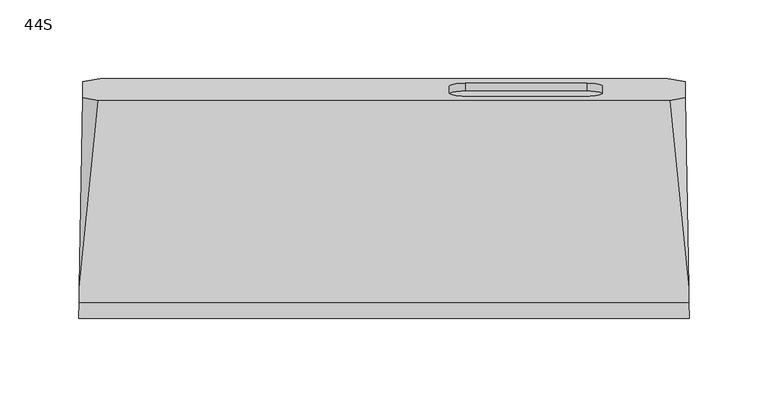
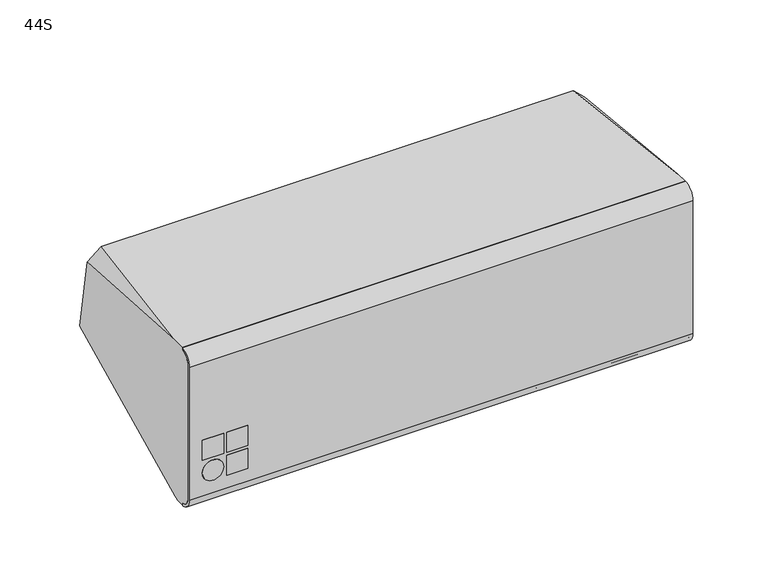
"""IFC4 building model written with IfcOpenShell, lengths in millimetres: proxy geometry, d&b xS-Series 44S Point Source : 44S."""

from ifc_helpers import new_model, si_unit, point, frame, frame_2d, origin, place, context, project, spatial, polyline, circle_curve, ellipse_curve, trimmed, segment, composite_curve, outline, extrude, source, transform, mapped, element, save
from ifc_brep_helpers import plane_surface, cylinder_surface, revolved_surface, advanced_brep


def proxy_44s_3f6da697(model_context):
    return source(origin(), model_context, "Body", "SolidModel", [
        advanced_brep(
        [(193.2924342, -66.0, 64.0), (193.2924342, -66.0, 62.0435242), (193.4294708, -73.9650952, 54.078429), (193.4294708, -73.9650952, -54.0), (193.2918337, -65.9650952, -62.0), (193.2918337, -65.9650952, -64.0), (193.1898069, -60.0349048, -64.0), (193.132384, -56.6972655, -62.7855103), (190.8800877, 74.2148737, -4.3760941), (191.0574064, 63.9084293, 54.074657), (193.132384, -56.6972655, 64.0), (-193.2924342, -66.0, 62.0435242), (-193.2924342, -66.0, 64.0), (-193.132384, -56.6972655, 64.0), (-191.0574064, 63.9084293, 54.074657), (-190.8800877, 74.2148737, -4.3760941), (-193.132384, -56.6972655, -62.7855103), (-193.1898069, -60.0349048, -64.0), (-193.2918337, -65.9650952, -64.0), (-193.2918337, -65.9650952, -62.0), (-193.4294708, -73.9650952, -54.0), (-193.4294708, -73.9650952, 54.078429), (181.3061997, 62.1583235, 64.0), (-181.3061997, 62.1583235, 64.0), (-179.9289467, 76.0, -14.5000481), (179.9289467, 76.0, -14.5000481), (138.5, 71.3365881, 11.9474751), (138.5, 66.8217355, 37.5524767), (128.5, 65.0852537, 47.4005542), (51.5, 65.0852537, 47.4005542), (41.5, 66.8217355, 37.5524767), (41.5, 71.3365881, 11.9474751), (51.5, 73.0730698, 2.0993976), (128.5, 73.0730698, 2.0993976), (138.5, 66.4125493, 11.0792343), (128.5, 68.1490311, 1.2311567), (51.5, 68.1490311, 1.2311567), (41.5, 66.4125493, 11.0792343), (41.5, 61.8976967, 36.6842358), (51.5, 60.1612149, 46.5323134), (128.5, 60.1612149, 46.5323134), (138.5, 61.8976967, 36.6842358)],
        [
            (0, 1),
            (1, 2, ellipse_curve(frame((193.2924342, -66.0, 54.078429), z_axis=(0.9998520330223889, 0.017202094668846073, 0.0), x_axis=(0.01720209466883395, -0.999852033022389, 0.0)), 7.9662739, 7.9650952)),
            (2, 3),
            (3, 4, ellipse_curve(frame((193.2918337, -65.9650952, -54.0), z_axis=(0.9998520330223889, 0.017202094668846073, 0.0), x_axis=(0.01720209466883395, -0.999852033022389, 0.0)), 8.0011839, 8.0)),
            (4, 5),
            (5, 6),
            (6, 7),
            (7, 8),
            (8, 9),
            (9, 10),
            (10, 0),
            (11, 12),
            (12, 13),
            (13, 14),
            (14, 15),
            (15, 16),
            (16, 17),
            (17, 18),
            (18, 19),
            (19, 20, ellipse_curve(frame((-193.2918337, -65.9650952, -54.0), z_axis=(-0.999852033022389, 0.01720209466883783, 0.0), x_axis=(0.017202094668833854, 0.999852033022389, 0.0)), 8.0011839, 8.0)),
            (20, 21),
            (21, 11, ellipse_curve(frame((-193.2924342, -66.0, 54.078429), z_axis=(-0.999852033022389, 0.01720209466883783, 0.0), x_axis=(0.017202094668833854, 0.999852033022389, 0.0)), 7.9662739, 7.9650952)),
            (0, 12),
            (11, 1),
            (21, 2),
            (20, 3),
            (19, 4),
            (18, 5),
            (17, 6),
            (10, 22),
            (22, 23),
            (23, 13),
            (16, 24),
            (24, 25),
            (25, 7),
            (9, 22),
            (23, 14),
            (15, 24),
            (25, 8),
            (26, 27),
            (27, 28, circle_curve(frame((128.5, 66.8217355, 37.5524767), z_axis=(0.0, -0.9848077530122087, -0.17364817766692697), x_axis=(0.0, 0.17364817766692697, -0.9848077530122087)), 10.0)),
            (28, 29),
            (29, 30, circle_curve(frame((51.5, 66.8217355, 37.5524767), z_axis=(0.0, -0.9848077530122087, -0.17364817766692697), x_axis=(0.0, 0.17364817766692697, -0.9848077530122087)), 10.0)),
            (30, 31),
            (31, 32, circle_curve(frame((51.5, 71.3365881, 11.9474751), z_axis=(0.0, -0.9848077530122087, -0.17364817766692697), x_axis=(0.0, 0.17364817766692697, -0.9848077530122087)), 10.0)),
            (32, 33),
            (33, 26, circle_curve(frame((128.5, 71.3365881, 11.9474751), z_axis=(0.0, -0.9848077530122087, -0.17364817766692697), x_axis=(0.0, 0.17364817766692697, -0.9848077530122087)), 10.0)),
            (34, 35, circle_curve(frame((128.5, 66.4125493, 11.0792343), z_axis=(0.0, 0.9848077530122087, 0.17364817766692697), x_axis=(0.0, 0.17364817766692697, -0.9848077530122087)), 10.0)),
            (35, 36),
            (36, 37, circle_curve(frame((51.5, 66.4125493, 11.0792343), z_axis=(0.0, 0.9848077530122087, 0.17364817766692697), x_axis=(0.0, 0.17364817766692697, -0.9848077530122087)), 10.0)),
            (37, 38),
            (38, 39, circle_curve(frame((51.5, 61.8976967, 36.6842358), z_axis=(0.0, 0.9848077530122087, 0.17364817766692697), x_axis=(0.0, 0.17364817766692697, -0.9848077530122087)), 10.0)),
            (39, 40),
            (40, 41, circle_curve(frame((128.5, 61.8976967, 36.6842358), z_axis=(0.0, 0.9848077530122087, 0.17364817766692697), x_axis=(0.0, 0.17364817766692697, -0.9848077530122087)), 10.0)),
            (41, 34),
            (41, 27),
            (26, 34),
            (40, 28),
            (39, 29),
            (38, 30),
            (37, 31),
            (36, 32),
            (35, 33),
        ],
        [
            plane_surface(frame((193.8309972, -97.3033587, -100.0), z_axis=(0.9998520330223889, 0.017202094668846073, 0.0), x_axis=(0.0, 0.0, 1.0))),
            plane_surface(frame((-190.7119283, 83.9889493, -100.0), z_axis=(-0.999852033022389, 0.01720209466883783, 0.0), x_axis=(0.0, 0.0, 1.0))),
            plane_surface(frame((207.1452552, -66.0, 64.0), z_axis=(0.0, -1.0, 0.0), x_axis=(-1.0, 0.0, 0.0))),
            cylinder_surface(frame((-207.1452552, -66.0, 54.078429), z_axis=(1.0, 0.0, 0.0), x_axis=(0.0, 0.0, 1.0)), 7.9650952),
            plane_surface(frame((207.1452552, -73.9650952, 54.078429), z_axis=(0.0, -1.0, 0.0), x_axis=(-1.0, 0.0, 0.0))),
            cylinder_surface(frame((-207.1452552, -65.9650952, -54.0), z_axis=(1.0, 0.0, 0.0), x_axis=(0.0, 0.0, 1.0)), 8.0),
            plane_surface(frame((207.1452552, -65.9650952, -62.0), z_axis=(0.0, -1.0, 0.0), x_axis=(-1.0, 0.0, 0.0))),
            plane_surface(frame((207.1452552, -65.9650952, -64.0), z_axis=(0.0, 0.0, -1.0), x_axis=(-1.0, 0.0, 0.0))),
            plane_surface(frame((207.1452552, -60.0349048, 64.0), z_axis=(0.0, 0.0, 1.0), x_axis=(-1.0, 0.0, 0.0))),
            plane_surface(frame((0.0, 76.0, -14.5000481), z_axis=(0.0, 0.34194264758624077, -0.939720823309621), x_axis=(1.0, 0.0, 0.0))),
            plane_surface(frame((186.6967137, 76.0, 57.232233), z_axis=(0.705363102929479, 0.07018394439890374, 0.7053631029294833), x_axis=(-0.7071067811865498, 0.0, 0.7071067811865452))),
            plane_surface(frame((-186.6967137, 76.0, 57.232233), z_axis=(-0.7053631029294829, 0.07018394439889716, 0.70536310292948), x_axis=(-0.7071067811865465, 0.0, -0.7071067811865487))),
            plane_surface(frame((-186.6967137, 76.0, -7.7322812), z_axis=(-0.6719558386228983, 0.31136907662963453, -0.6719558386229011), x_axis=(0.7071067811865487, 0.0, -0.7071067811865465))),
            plane_surface(frame((186.6967137, 76.0, -7.7322812), z_axis=(0.6719558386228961, 0.31136907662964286, -0.6719558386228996), x_axis=(0.7071067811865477, 0.0, 0.7071067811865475))),
            plane_surface(frame((250.0, 59.1151772, 81.2585403), z_axis=(0.0, 0.9848077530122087, 0.17364817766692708), x_axis=(-1.0, 0.0, 0.0))),
            plane_surface(frame((138.5, 57.2342848, 63.1317591), z_axis=(0.0, 0.9848077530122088, 0.173648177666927), x_axis=(0.0, -0.173648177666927, 0.9848077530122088))),
            plane_surface(frame((138.5, 66.4125493, 11.0792343), z_axis=(-1.0, 0.0, 0.0), x_axis=(0.0, 0.9848077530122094, 0.1736481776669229))),
            revolved_surface(polyline([(128.5, 63.63417846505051, 26.836158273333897), (128.5, 68.55821727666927, 27.704399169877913)]), (128.5, 66.8217355, 37.5524767), (0.0, -0.9848077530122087, -0.17364817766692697)),
            plane_surface(frame((128.5, 60.1612149, 46.5323134), z_axis=(0.0, 0.1736481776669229, -0.9848077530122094), x_axis=(0.0, 0.9848077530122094, 0.1736481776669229))),
            revolved_surface(polyline([(51.5, 63.63417846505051, 26.836158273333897), (51.5, 68.55821727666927, 27.704399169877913)]), (51.5, 66.8217355, 37.5524767), (0.0, -0.9848077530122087, -0.17364817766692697)),
            plane_surface(frame((41.5, 61.8976967, 36.6842358), z_axis=(1.0, 0.0, 0.0), x_axis=(0.0, 0.9848077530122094, 0.1736481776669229))),
            revolved_surface(polyline([(51.5, 68.1490310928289, 1.2311566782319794), (51.5, 73.07306987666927, 2.0993975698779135)]), (51.5, 71.3365881, 11.9474751), (0.0, -0.9848077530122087, -0.17364817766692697)),
            plane_surface(frame((51.5, 68.1490311, 1.2311567), z_axis=(0.0, -0.1736481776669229, 0.9848077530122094), x_axis=(0.0, 0.9848077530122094, 0.1736481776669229))),
            revolved_surface(polyline([(128.5, 68.1490310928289, 1.2311566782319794), (128.5, 73.07306987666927, 2.0993975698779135)]), (128.5, 71.3365881, 11.9474751), (0.0, -0.9848077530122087, -0.17364817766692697)),
        ],
        [
            (0, [[1, 2, 3, 4, 5, 6, 7, 8, 9, 10, 11]]),
            (1, [[12, 13, 14, 15, 16, 17, 18, 19, 20, 21, 22]]),
            (2, [[23, -12, 24, -1]]),
            (3, [[-24, -22, 25, -2]]),
            (4, [[-25, -21, 26, -3]]),
            (5, [[-26, -20, 27, -4]]),
            (6, [[-27, -19, 28, -5]]),
            (7, [[-28, -18, 29, -6]]),
            (8, [[-23, -11, 30, 31, 32, -13]]),
            (9, [[-29, -17, 33, 34, 35, -7]]),
            (10, [[-30, -10, 36]]),
            (11, [[-32, 37, -14]]),
            (12, [[-33, -16, 38]]),
            (13, [[-35, 39, -8]]),
            (14, [[-31, -36, -9, -39, -34, -38, -15, -37], [40, 41, 42, 43, 44, 45, 46, 47]]),
            (15, [[48, 49, 50, 51, 52, 53, 54, 55]]),
            (16, [[-55, 56, -40, 57]]),
            (17, [[-54, 58, -41, -56]]),
            (18, [[-53, 59, -42, -58]]),
            (19, [[-52, 60, -43, -59]]),
            (20, [[-51, 61, -44, -60]]),
            (21, [[-50, 62, -45, -61]]),
            (22, [[-49, 63, -46, -62]]),
            (23, [[-48, -57, -47, -63]]),
        ],
    ),
        extrude(outline(polyline([(-148.4644806, -76.0), (-164.7978139, -76.0), (-164.7978139, -71.0), (-148.4644806, -71.0), (-148.4644806, -76.0)])), frame((0.0, 0.0, -44.0), z_axis=(0.0, 0.0, 1.0), x_axis=(1.0, 0.0, 0.0)), (0.0, 0.0, 1.0), 16.3333333),
        extrude(outline(polyline([(-148.4644806, -76.0), (-164.7978139, -76.0), (-164.7978139, -71.0), (-148.4644806, -71.0), (-148.4644806, -76.0)])), frame((0.0, 0.0, -25.3333333), z_axis=(0.0, 0.0, 1.0), x_axis=(1.0, 0.0, 0.0)), (0.0, 0.0, 1.0), 16.3333333),
        extrude(outline(polyline([(-167.1311473, -76.0), (-183.4644806, -76.0), (-183.4644806, -71.0), (-167.1311473, -71.0), (-167.1311473, -76.0)])), frame((0.0, 0.0, -25.3333333), z_axis=(0.0, 0.0, 1.0), x_axis=(1.0, 0.0, 0.0)), (0.0, 0.0, 1.0), 16.3333333),
        extrude(outline(composite_curve([segment(trimmed(circle_curve(frame_2d((-35.8333333, -175.2978139)), 8.1666667), [point((-35.8333333, -183.4644806))], [point((-35.8333333, -167.1311473))], False, "CARTESIAN"), True, "CONTINUOUS"), segment(trimmed(circle_curve(frame_2d((-35.8333333, -175.2978139)), 8.1666667), [point((-35.8333333, -167.1311473))], [point((-35.8333333, -183.4644806))], False, "CARTESIAN"), True, "CONTINUOUS")], self_intersect=False)), frame((0.0, -76.0, 0.0), z_axis=(0.0, 1.0, 0.0), x_axis=(0.0, 0.0, 1.0)), (0.0, 0.0, 1.0), 5.0),
        advanced_brep(
        [(193.4294708, -73.9650952, -54.0), (193.4294708, -73.9650952, 54.078429), (193.2924342, -66.0, 62.0435242), (193.2924342, -66.0, 64.0), (193.4644806, -76.0, 54.0), (193.4644806, -76.0, -54.0), (193.2918337, -65.9650952, -64.0349048), (193.2918337, -65.9650952, -62.0), (-193.4294708, -73.9650952, 54.078429), (-193.4294708, -73.9650952, -54.0), (-193.2918337, -65.9650952, -62.0), (-193.2918337, -65.9650952, -64.0349048), (-193.4644806, -76.0, -54.0), (-193.4644806, -76.0, 54.0), (-193.2924342, -66.0, 64.0), (-193.2924342, -66.0, 62.0435242)],
        [
            (0, 1),
            (1, 2, ellipse_curve(frame((193.2924342, -66.0, 54.078429), z_axis=(-0.9998520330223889, -0.017202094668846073, 0.0), x_axis=(-0.01720209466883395, 0.999852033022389, 0.0)), 7.9662739, 7.9650952)),
            (2, 3),
            (3, 4, ellipse_curve(frame((193.2924342, -66.0, 54.0), z_axis=(0.9998520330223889, 0.017202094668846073, 0.0), x_axis=(0.01720209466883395, -0.999852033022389, 0.0)), 10.0014799, 10.0)),
            (4, 5),
            (5, 6, ellipse_curve(frame((193.2918337, -65.9650952, -54.0), z_axis=(0.9998520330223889, 0.017202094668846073, 0.0), x_axis=(0.01720209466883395, -0.999852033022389, 0.0)), 10.0363899, 10.0349048)),
            (6, 7),
            (7, 0, ellipse_curve(frame((193.2918337, -65.9650952, -54.0), z_axis=(-0.9998520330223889, -0.017202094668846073, 0.0), x_axis=(-0.01720209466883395, 0.999852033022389, 0.0)), 8.0011839, 8.0)),
            (8, 9),
            (9, 10, ellipse_curve(frame((-193.2918337, -65.9650952, -54.0), z_axis=(0.999852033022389, -0.01720209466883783, 0.0), x_axis=(-0.017202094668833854, -0.999852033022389, 0.0)), 8.0011839, 8.0)),
            (10, 11),
            (11, 12, ellipse_curve(frame((-193.2918337, -65.9650952, -54.0), z_axis=(-0.999852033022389, 0.01720209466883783, 0.0), x_axis=(0.017202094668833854, 0.999852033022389, 0.0)), 10.0363899, 10.0349048)),
            (12, 13),
            (13, 14, ellipse_curve(frame((-193.2924342, -66.0, 54.0), z_axis=(-0.999852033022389, 0.01720209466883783, 0.0), x_axis=(0.017202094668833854, 0.999852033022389, 0.0)), 10.0014799, 10.0)),
            (14, 15),
            (15, 8, ellipse_curve(frame((-193.2924342, -66.0, 54.078429), z_axis=(0.999852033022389, -0.01720209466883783, 0.0), x_axis=(-0.017202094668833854, -0.999852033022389, 0.0)), 7.9662739, 7.9650952)),
            (0, 9),
            (8, 1),
            (15, 2),
            (14, 3),
            (13, 4),
            (12, 5),
            (11, 6),
            (10, 7),
        ],
        [
            plane_surface(frame((193.8309972, -97.3033587, -100.0), z_axis=(0.9998520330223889, 0.017202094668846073, 0.0), x_axis=(0.0, 0.0, 1.0))),
            plane_surface(frame((-190.7119283, 83.9889493, -100.0), z_axis=(-0.999852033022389, 0.01720209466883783, 0.0), x_axis=(0.0, 0.0, 1.0))),
            plane_surface(frame((202.5, -73.9650952, -54.0), z_axis=(0.0, 1.0, 0.0), x_axis=(-1.0, 0.0, 0.0))),
            revolved_surface(polyline([(-193.4294708, -66.0, 46.1133338), (193.4294708, -66.0, 46.1133338)]), (-202.5, -66.0, 54.078429), (-1.0, 0.0, 0.0)),
            plane_surface(frame((202.5, -66.0, 62.0435242), z_axis=(0.0, 1.0, 0.0), x_axis=(-1.0, 0.0, 0.0))),
            cylinder_surface(frame((-202.5, -66.0, 54.0), z_axis=(1.0, 0.0, 0.0), x_axis=(0.0, 0.0, -1.0)), 10.0),
            plane_surface(frame((202.5, -76.0, 54.0), z_axis=(0.0, -1.0, 0.0), x_axis=(-1.0, 0.0, 0.0))),
            cylinder_surface(frame((-202.5, -65.9650952, -54.0), z_axis=(1.0, 0.0, 0.0), x_axis=(0.0, 0.0, -1.0)), 10.0349048),
            plane_surface(frame((202.5, -65.9650952, -64.0349048), z_axis=(0.0, 1.0, 0.0), x_axis=(-1.0, 0.0, 0.0))),
            revolved_surface(polyline([(-193.42947082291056, -65.9650952, -62.0), (193.42947082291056, -65.9650952, -62.0)]), (-202.5, -65.9650952, -54.0), (-1.0, 0.0, 0.0)),
        ],
        [
            (0, [[1, 2, 3, 4, 5, 6, 7, 8]]),
            (1, [[9, 10, 11, 12, 13, 14, 15, 16]]),
            (2, [[17, -9, 18, -1]]),
            (3, [[-18, -16, 19, -2]]),
            (4, [[-19, -15, 20, -3]]),
            (5, [[-20, -14, 21, -4]]),
            (6, [[-21, -13, 22, -5]]),
            (7, [[-22, -12, 23, -6]]),
            (8, [[-23, -11, 24, -7]]),
            (9, [[-17, -8, -24, -10]]),
        ],
    ),
    ])


if __name__ == "__main__":
    model = new_model("IFC4")
    model_context = context("Model", 3, world=origin())
    ifc_project = project(units=[si_unit("LENGTHUNIT", "METRE", prefix="MILLI")], contexts=[model_context])
    site = spatial("IfcSite", under=ifc_project)
    building = spatial("IfcBuilding", under=site)
    placement = place(None, origin())
    proxy_44s_shape = proxy_44s_3f6da697(model_context)
    element("IfcBuildingElementProxy", 1, Name="d&b xS-Series 44S Point Source : 44S", ObjectType="d&b xS-Series 44S Point Source : 44S", at=placement, inside=building, context=model_context, shape_type="MappedRepresentation", body=[
        mapped(proxy_44s_shape, transform((0.0, 0.0, 0.0), x_axis=(1.0, 0.0, 0.0), y_axis=(0.0, 1.0, 0.0), z_axis=(0.0, 0.0, 1.0))),
    ])
    save(model, "model.ifc")
